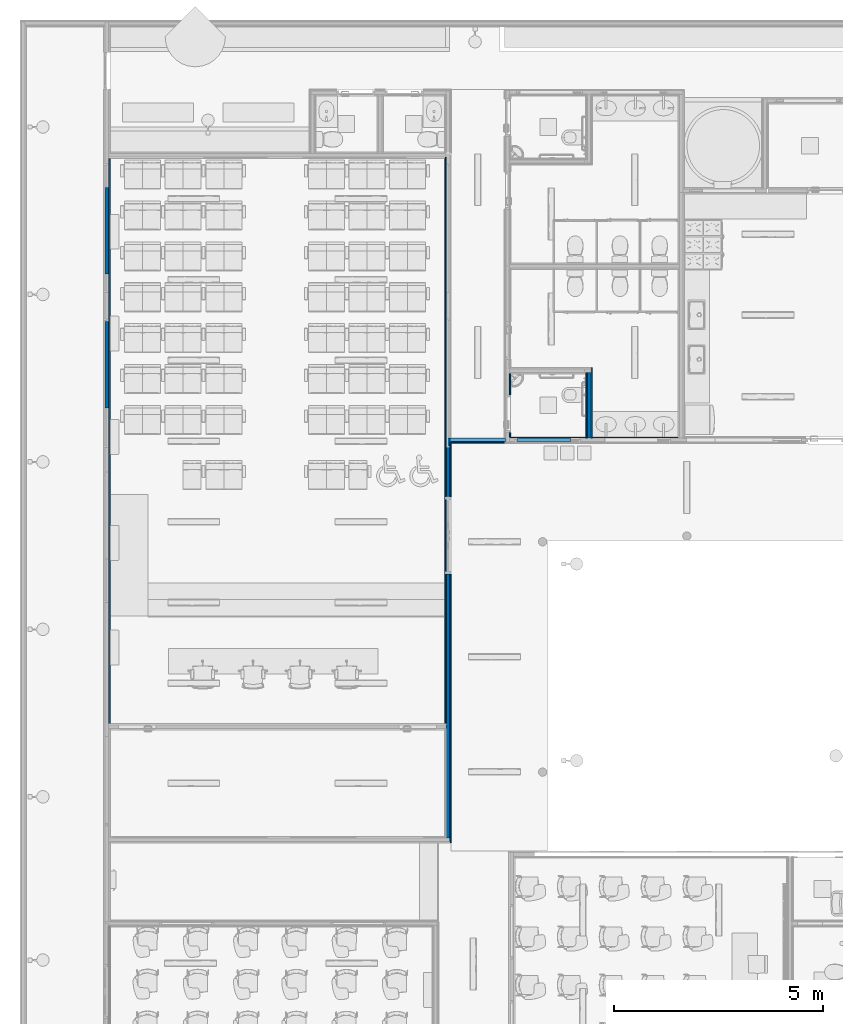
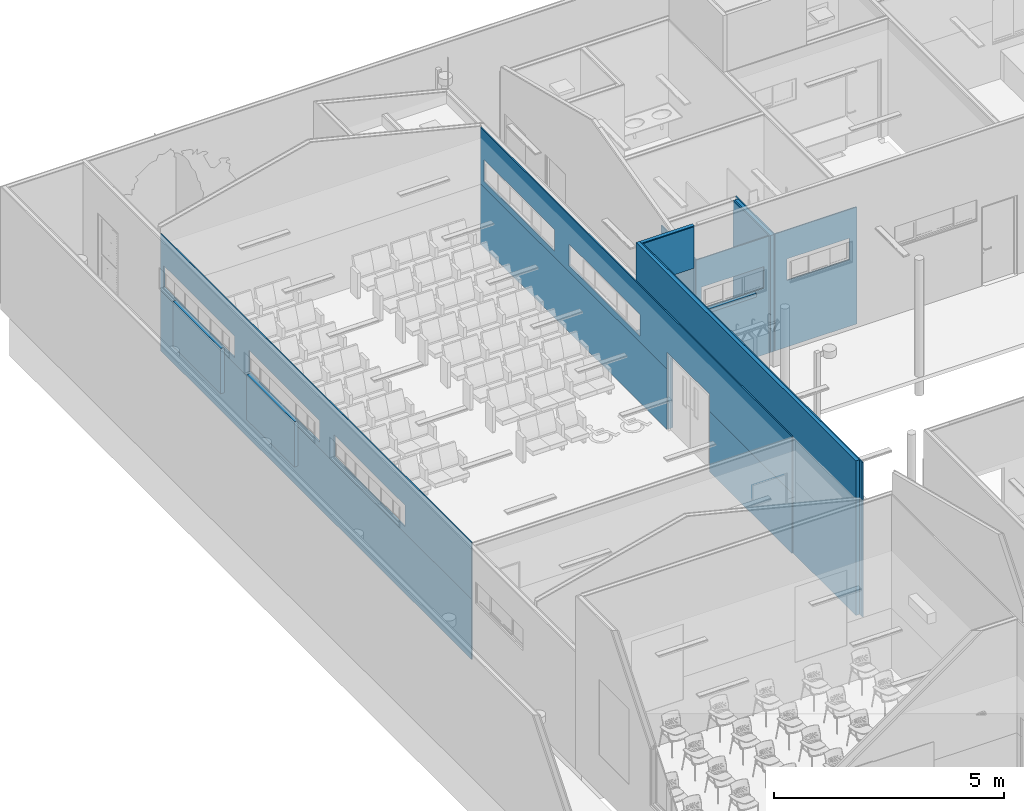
# One storey, part 27 of 155: 17 walls, 40 openings.
"""IFC2X3 building model written with IfcOpenShell, lengths in metres."""

from ifc_helpers import new_model, entity, si_unit, converted_unit, derived_unit, direction, frame, frame_2d, origin, place, context, subcontext, project, spatial, rectangle, extrude, material, layer, layer_set, layer_usage, type_object, element, save


model = new_model("IFC2X3")

# Units and contexts
model_context = context("Model", 3, precision=1e-05, world=origin(), true_north=direction((6.12303176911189e-17, 1.0)))
body_context = subcontext(model_context, "Body", "Model", "MODEL_VIEW")
ifc_project = project(units=[si_unit("LENGTHUNIT", "METRE"), si_unit("AREAUNIT", "SQUARE_METRE"), si_unit("VOLUMEUNIT", "CUBIC_METRE"), converted_unit("PLANEANGLEUNIT", "DEGREE", entity("IfcRatioMeasure", 0.0174532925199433), si_unit("PLANEANGLEUNIT", "RADIAN"), dimensions=[0, 0, 0, 0, 0, 0, 0]), si_unit("MASSUNIT", "GRAM", prefix="KILO"), derived_unit("MASSDENSITYUNIT", [(si_unit("MASSUNIT", "GRAM", prefix="KILO"), 1), (si_unit("LENGTHUNIT", "METRE"), -3)]), si_unit("TIMEUNIT", "SECOND"), si_unit("FREQUENCYUNIT", "HERTZ"), si_unit("THERMODYNAMICTEMPERATUREUNIT", "DEGREE_CELSIUS"), derived_unit("THERMALTRANSMITTANCEUNIT", [(si_unit("MASSUNIT", "GRAM", prefix="KILO"), 1), (si_unit("THERMODYNAMICTEMPERATUREUNIT", "KELVIN"), -1), (si_unit("TIMEUNIT", "SECOND"), -3)]), derived_unit("VOLUMETRICFLOWRATEUNIT", [(si_unit("LENGTHUNIT", "METRE"), 3), (si_unit("TIMEUNIT", "SECOND"), -1)]), si_unit("ELECTRICCURRENTUNIT", "AMPERE"), si_unit("ELECTRICVOLTAGEUNIT", "VOLT"), si_unit("POWERUNIT", "WATT"), si_unit("FORCEUNIT", "NEWTON", prefix="KILO"), si_unit("ILLUMINANCEUNIT", "LUX"), si_unit("LUMINOUSFLUXUNIT", "LUMEN"), si_unit("LUMINOUSINTENSITYUNIT", "CANDELA"), derived_unit("USERDEFINED", [(si_unit("MASSUNIT", "GRAM", prefix="KILO"), -1), (si_unit("LENGTHUNIT", "METRE"), -2), (si_unit("TIMEUNIT", "SECOND"), 3), (si_unit("LUMINOUSFLUXUNIT", "LUMEN"), 1)]), derived_unit("LINEARVELOCITYUNIT", [(si_unit("LENGTHUNIT", "METRE"), 1), (si_unit("TIMEUNIT", "SECOND"), -1)]), si_unit("PRESSUREUNIT", "PASCAL"), derived_unit("USERDEFINED", [(si_unit("LENGTHUNIT", "METRE"), -2), (si_unit("MASSUNIT", "GRAM", prefix="KILO"), 1), (si_unit("TIMEUNIT", "SECOND"), -2)])], contexts=[model_context])

# Site, building, storey
site_placement = place(None, frame((26.9889013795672, -17.5624287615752, 0.0)))
site = spatial("IfcSite", under=ifc_project, at=site_placement, Name="Default", CompositionType="ELEMENT")
building_placement = place(site_placement, origin())
building = spatial("IfcBuilding", under=site, at=building_placement, Name="C. C. L. Monsenhor Antônio Sampaio", CompositionType="ELEMENT")
storey_placement = place(building_placement, frame((0.0, 0.0, 1.19999999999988)))
storey = spatial("IfcBuildingStorey", under=building, at=storey_placement, Name="Nível 1.2", CompositionType="ELEMENT", Elevation=1.19999999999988)

# Wall, openings
ifc_material_1 = material(Name="ALVENARIA")
ifc_layer_1 = layer(ifc_material_1, 0.09)
ifc_layer_set_1 = layer_set([ifc_layer_1], Name="Parede básica:ENucleo parede 15cm")
ifc_layer_usage_1 = layer_usage(ifc_layer_set_1, "AXIS2", "NEGATIVE", 0.045)
wall_type_1 = type_object("IfcWallType", Name="Parede básica:ENucleo parede 15cm", PredefinedType="STANDARD", material=ifc_layer_set_1)
wall_1_placement = place(storey_placement, frame((-5.91555229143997, -26.3330663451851, 0.0), z_axis=(0.0, 0.0, 1.0), x_axis=(0.0, 1.0, 0.0)))
wall_1 = element("IfcWallStandardCase", 1, at=wall_1_placement, inside=storey, type_object=wall_type_1, material=ifc_layer_usage_1, Name="Parede básica:ENucleo parede 15cm", ObjectType="Parede básica:ENucleo parede 15cm", context=body_context, shape_type="SweptSolid", body=[
    extrude(rectangle(XDim=9.54999999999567, YDim=0.089999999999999, at=frame_2d((4.77499999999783, 6.93889390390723e-18), x_axis=(-1.0, 0.0))), origin(), (0.0, 0.0, 1.0), 4.10000000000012),
])
opening_1_placement = place(wall_1_placement, origin())
element("IfcOpeningElement", 2, at=opening_1_placement, cuts=wall_1, Name="Parede básica:ENucleo parede 15cm", ObjectType="Opening", context=body_context, shape_type="SweptSolid", body=[
    extrude(rectangle(XDim=0.569999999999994, YDim=3.07, at=frame_2d((0.0, 2.77555756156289e-16), x_axis=(0.0, 1.0))), frame((10.8600000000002, -1.479, 2.05000000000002), z_axis=(0.0, 1.0, 0.0), x_axis=(-1.0, 0.0, 0.0)), (0.0, 0.0, 1.0), 3.048),
])
opening_2_placement = place(wall_1_placement, origin())
element("IfcOpeningElement", 3, at=opening_2_placement, cuts=wall_1, Name="Parede básica:ENucleo parede 15cm", ObjectType="Opening", context=body_context, shape_type="SweptSolid", body=[
    extrude(rectangle(XDim=0.569999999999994, YDim=3.07, at=frame_2d((0.0, 2.77555756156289e-16), x_axis=(0.0, 1.0))), frame((14.5600000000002, -1.479, 2.05000000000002), z_axis=(0.0, 1.0, 0.0), x_axis=(-1.0, 0.0, 0.0)), (0.0, 0.0, 1.0), 3.048),
])
opening_3_placement = place(wall_1_placement, frame((8.14999999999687, 0.0449999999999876, 0.0)))
element("IfcOpeningElement", 4, at=opening_3_placement, cuts=wall_1, Name="Porta dupla auditorio:AUDITÓRIO azul:1", ObjectType="Opening", context=body_context, shape_type="SweptSolid", body=[
    extrude(rectangle(XDim=2.05, YDim=1.85, at=frame_2d((1.025, 0.924999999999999), x_axis=(1.0, 0.0))), frame((0.0, 0.0, 0.0), z_axis=(0.0, -1.0, 0.0), x_axis=(0.0, 0.0, 1.0)), (0.0, 0.0, 1.0), 0.09),
])

# Walls
ifc_layer_usage_2 = layer_usage(ifc_layer_set_1, "AXIS2", "POSITIVE", -0.045)
wall_2_placement = place(storey_placement, frame((-14.065552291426, -16.0680663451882, 0.565000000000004), z_axis=(0.0, 0.0, 1.0), x_axis=(0.0, 1.0, 0.0)))
element("IfcWallStandardCase", 5, at=wall_2_placement, inside=storey, type_object=wall_type_1, material=ifc_layer_usage_2, Name="Parede básica:ENucleo parede 15cm", ObjectType="Parede básica:ENucleo parede 15cm", context=body_context, shape_type="SweptSolid", body=[
    extrude(rectangle(XDim=2.07, YDim=0.089999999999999, at=frame_2d((-9.99200722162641e-16, -1.08593689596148e-15), x_axis=(1.0, 0.0))), frame((1.035, 0.0, 0.0), z_axis=(0.0, 0.0, 1.0), x_axis=(-1.0, 0.0, 0.0)), (0.0, 0.0, 1.0), 1.20000000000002),
])
ifc_layer_usage_3 = layer_usage(ifc_layer_set_1, "AXIS2", "POSITIVE", -0.045)
wall_3_placement = place(storey_placement, frame((-14.065552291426, -12.8680663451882, 0.565000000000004), z_axis=(0.0, 0.0, 1.0), x_axis=(0.0, 1.0, 0.0)))
element("IfcWallStandardCase", 6, at=wall_3_placement, inside=storey, type_object=wall_type_1, material=ifc_layer_usage_3, Name="Parede básica:ENucleo parede 15cm", ObjectType="Parede básica:ENucleo parede 15cm", context=body_context, shape_type="SweptSolid", body=[
    extrude(rectangle(XDim=2.07, YDim=0.089999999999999, at=frame_2d((-1.11022302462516e-15, 0.0), x_axis=(1.0, 0.0))), frame((1.035, 0.0, 0.0), z_axis=(0.0, 0.0, 1.0), x_axis=(-1.0, 0.0, 0.0)), (0.0, 0.0, 1.0), 1.20000000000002),
])
ifc_layer_usage_4 = layer_usage(ifc_layer_set_1, "AXIS2", "POSITIVE", -0.045)
wall_4_placement = place(storey_placement, frame((-4.26055229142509, -16.8280663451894, 1.66500000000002)))
element("IfcWallStandardCase", 7, at=wall_4_placement, inside=storey, type_object=wall_type_1, material=ifc_layer_usage_4, Name="Parede básica:ENucleo parede 15cm", ObjectType="Parede básica:ENucleo parede 15cm", context=body_context, shape_type="SweptSolid", body=[
    extrude(rectangle(XDim=1.26999999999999, YDim=0.089999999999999, at=frame_2d((0.0, 1.08593689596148e-15), x_axis=(1.0, 0.0))), frame((0.634999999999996, 0.0, 0.0), z_axis=(0.0, 0.0, 1.0), x_axis=(-1.0, 0.0, 0.0)), (0.0, 0.0, 1.0), 0.1),
])
ifc_layer_usage_5 = layer_usage(ifc_layer_set_1, "AXIS2", "POSITIVE", -0.045)
wall_5_placement = place(storey_placement, frame((-2.54554691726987, -16.7830663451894, 0.0), z_axis=(0.0, 0.0, 1.0), x_axis=(0.0, 1.0, 0.0)))
element("IfcWallStandardCase", 8, at=wall_5_placement, inside=storey, type_object=wall_type_1, material=ifc_layer_usage_5, Name="Parede básica:ENucleo parede 15cm", ObjectType="Parede básica:ENucleo parede 15cm", context=body_context, shape_type="SweptSolid", body=[
    extrude(rectangle(XDim=1.5600000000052, YDim=0.0900000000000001, at=frame_2d((0.780000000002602, 2.42861286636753e-17), x_axis=(-1.0, 0.0))), origin(), (0.0, 0.0, 1.0), 3.10000000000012),
])
ifc_layer_usage_6 = layer_usage(ifc_layer_set_1, "AXIS2", "NEGATIVE", 0.045)
wall_6_placement = place(storey_placement, frame((-5.87055229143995, -16.8280663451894, 3.0)))
element("IfcWallStandardCase", 9, at=wall_6_placement, inside=storey, type_object=wall_type_1, material=ifc_layer_usage_6, Name="Parede básica:ENucleo parede 15cm", ObjectType="Parede básica:ENucleo parede 15cm", context=body_context, shape_type="SweptSolid", body=[
    extrude(rectangle(XDim=1.33000000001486, YDim=0.0900000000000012, at=frame_2d((0.665000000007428, 1.00613961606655e-16), x_axis=(-1.0, 0.0))), origin(), (0.0, 0.0, 1.0), 1.10000000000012),
])
ifc_material_2 = material(Name=".CERÂMICA 10x10 BRANCA")
ifc_layer_2 = layer(ifc_material_2, 0.0035)
ifc_material_3 = material(Name="Argamassa Colante")
ifc_layer_3 = layer(ifc_material_3, 0.02)
ifc_material_4 = material(Name="4")
ifc_layer_4 = layer(ifc_material_4, 0.0015)
ifc_material_5 = material(Name="3")
ifc_layer_5 = layer(ifc_material_5, 0.005)
ifc_layer_set_2 = layer_set([ifc_layer_2, ifc_layer_3, ifc_layer_4, ifc_layer_5], Name="Parede básica:ECeramica branca 10x10cm")
ifc_layer_usage_7 = layer_usage(ifc_layer_set_2, "AXIS2", "NEGATIVE", 0.015)
wall_type_2 = type_object("IfcWallType", Name="Parede básica:ECeramica branca 10x10cm", PredefinedType="STANDARD", material=ifc_layer_set_2)
wall_7_placement = place(storey_placement, frame((-2.60554691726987, -16.7830663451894, 0.0), z_axis=(0.0, 0.0, 1.0), x_axis=(0.0, 1.0, 0.0)))
element("IfcWallStandardCase", 10, at=wall_7_placement, inside=storey, type_object=wall_type_2, material=ifc_layer_usage_7, Name="Parede básica:ECeramica branca 10x10cm", ObjectType="Parede básica:ECeramica branca 10x10cm", context=body_context, shape_type="SweptSolid", body=[
    extrude(rectangle(XDim=1.5600000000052, YDim=0.0299999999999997, at=frame_2d((0.780000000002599, 2.68882138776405e-17), x_axis=(-1.0, 0.0))), origin(), (0.0, 0.0, 1.0), 3.10000000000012),
])
ifc_layer_usage_8 = layer_usage(ifc_layer_set_2, "AXIS2", "POSITIVE", -0.015)
wall_8_placement = place(storey_placement, frame((-2.48554691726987, -16.7830663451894, 0.0), z_axis=(0.0, 0.0, 1.0), x_axis=(0.0, 1.0, 0.0)))
element("IfcWallStandardCase", 11, at=wall_8_placement, inside=storey, type_object=wall_type_2, material=ifc_layer_usage_8, Name="Parede básica:ECeramica branca 10x10cm", ObjectType="Parede básica:ECeramica branca 10x10cm", context=body_context, shape_type="SweptSolid", body=[
    extrude(rectangle(XDim=1.68000000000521, YDim=0.0299999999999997, at=frame_2d((0.840000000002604, 2.77555756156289e-17), x_axis=(-1.0, 0.0))), origin(), (0.0, 0.0, 1.0), 3.10000000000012),
])

# Wall, opening
ifc_layer_usage_9 = layer_usage(ifc_layer_set_2, "AXIS2", "NEGATIVE", 0.015)
wall_9_placement = place(storey_placement, frame((-4.43555229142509, -15.2530663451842, 0.0), z_axis=(0.0, 0.0, 1.0), x_axis=(0.0, -1.0, 0.0)))
wall_9 = element("IfcWallStandardCase", 12, at=wall_9_placement, inside=storey, type_object=wall_type_2, material=ifc_layer_usage_9, Name="Parede básica:ECeramica branca 10x10cm", ObjectType="Parede básica:ECeramica branca 10x10cm", context=body_context, shape_type="SweptSolid", body=[
    extrude(rectangle(XDim=1.5000000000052, YDim=0.0299999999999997, at=frame_2d((0.750000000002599, -2.60208521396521e-17), x_axis=(-1.0, 0.0))), origin(), (0.0, 0.0, 1.0), 3.10000000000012),
])
opening_4_placement = place(wall_9_placement, origin())
element("IfcOpeningElement", 13, at=opening_4_placement, cuts=wall_9, Name="Parede básica:ECeramica branca 10x10cm", ObjectType="Opening", context=body_context, shape_type="SweptSolid", body=[
    extrude(rectangle(XDim=2.09999999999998, YDim=0.900000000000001, at=frame_2d((-3.33066907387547e-16, -1.08246744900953e-15), x_axis=(1.0, 0.0))), frame((0.950000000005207, -1.629, 1.04999999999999), z_axis=(0.0, 1.0, 0.0), x_axis=(0.0, 0.0, 1.0)), (0.0, 0.0, 1.0), 3.048),
])

# Wall, openings
ifc_layer_usage_10 = layer_usage(ifc_layer_set_2, "AXIS2", "NEGATIVE", 0.015)
wall_10_placement = place(storey_placement, frame((-4.45055229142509, -16.7680663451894, 0.0)))
wall_10 = element("IfcWallStandardCase", 14, at=wall_10_placement, inside=storey, type_object=wall_type_2, material=ifc_layer_usage_10, Name="Parede básica:ECeramica branca 10x10cm", ObjectType="Parede básica:ECeramica branca 10x10cm", context=body_context, shape_type="SweptSolid", body=[
    extrude(rectangle(XDim=1.83000537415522, YDim=0.0300000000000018, at=frame_2d((0.915002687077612, 0.0), x_axis=(-1.0, 0.0))), origin(), (0.0, 0.0, 1.0), 3.10000000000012),
])
opening_5_placement = place(wall_10_placement, origin())
element("IfcOpeningElement", 15, at=opening_5_placement, cuts=wall_10, Name="Parede básica:ECeramica branca 10x10cm", ObjectType="Opening", context=body_context, shape_type="SweptSolid", body=[
    extrude(rectangle(XDim=0.570000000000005, YDim=1.56999999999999, at=frame_2d((5.27355936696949e-16, -2.22044604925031e-16), x_axis=(1.0, 0.0))), frame((0.915002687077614, -1.53900000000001, 2.05000000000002), z_axis=(0.0, 1.0, 0.0), x_axis=(0.0, 0.0, 1.0)), (0.0, 0.0, 1.0), 3.048),
])
opening_6_placement = place(wall_10_placement, origin())
element("IfcOpeningElement", 16, at=opening_6_placement, cuts=wall_10, Name="Parede básica:ECeramica branca 10x10cm", ObjectType="Opening", context=body_context, shape_type="SweptSolid", body=[
    extrude(rectangle(XDim=0.570000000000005, YDim=1.56999999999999, at=frame_2d((5.27355936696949e-16, 0.0), x_axis=(1.0, 0.0))), frame((3.0650053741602, -1.53900000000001, 2.05000000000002), z_axis=(0.0, 1.0, 0.0), x_axis=(0.0, 0.0, 1.0)), (0.0, 0.0, 1.0), 3.048),
])
opening_7_placement = place(wall_10_placement, origin())
element("IfcOpeningElement", 17, at=opening_7_placement, cuts=wall_10, Name="Parede básica:ECeramica branca 10x10cm", ObjectType="Opening", context=body_context, shape_type="SweptSolid", body=[
    extrude(rectangle(XDim=0.570000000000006, YDim=2.07, at=frame_2d((0.0, 2.77555756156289e-16), x_axis=(0.0, 1.0))), frame((5.94141826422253, -1.53900000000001, 2.05000000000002), z_axis=(0.0, 1.0, 0.0), x_axis=(-1.0, 0.0, 0.0)), (0.0, 0.0, 1.0), 3.048),
])
opening_8_placement = place(wall_10_placement, origin())
element("IfcOpeningElement", 18, at=opening_8_placement, cuts=wall_10, Name="Parede básica:ECeramica branca 10x10cm", ObjectType="Opening", context=body_context, shape_type="SweptSolid", body=[
    extrude(rectangle(XDim=0.570000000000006, YDim=2.06999999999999, at=frame_2d((0.0, 2.77555756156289e-16), x_axis=(0.0, 1.0))), frame((14.6901682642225, -1.539, 2.05000000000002), z_axis=(0.0, 1.0, 0.0), x_axis=(-1.0, 0.0, 0.0)), (0.0, 0.0, 1.0), 3.048),
])
opening_9_placement = place(wall_10_placement, origin())
element("IfcOpeningElement", 19, at=opening_9_placement, cuts=wall_10, Name="Parede básica:ECeramica branca 10x10cm", ObjectType="Opening", context=body_context, shape_type="SweptSolid", body=[
    extrude(rectangle(XDim=0.570000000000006, YDim=2.07, at=frame_2d((5.55111512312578e-16, 2.77555756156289e-16), x_axis=(0.0, 1.0))), frame((12.2001682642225, -1.539, 2.05000000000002), z_axis=(0.0, 1.0, 0.0), x_axis=(-1.0, 0.0, 0.0)), (0.0, 0.0, 1.0), 3.048),
])

ifc_layer_usage_11 = layer_usage(ifc_layer_set_2, "AXIS2", "NEGATIVE", 0.015)
wall_11_placement = place(storey_placement, frame((-5.97555229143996, -23.6030663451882, 0.0), z_axis=(0.0, 0.0, 1.0), x_axis=(0.0, 1.0, 0.0)))
wall_11 = element("IfcWallStandardCase", 20, at=wall_11_placement, inside=storey, type_object=wall_type_2, material=ifc_layer_usage_11, Name="Parede básica:ECeramica branca 10x10cm", ObjectType="Parede básica:ECeramica branca 10x10cm", context=body_context, shape_type="SweptSolid", body=[
    extrude(rectangle(XDim=13.5300000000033, YDim=0.0299999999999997, at=frame_2d((6.76500000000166, 0.0), x_axis=(-1.0, 0.0))), origin(), (0.0, 0.0, 1.0), 1.6),
])
opening_10_placement = place(wall_11_placement, origin())
element("IfcOpeningElement", 21, at=opening_10_placement, cuts=wall_11, Name="Parede básica:ECeramica branca 10x10cm", ObjectType="Opening", context=body_context, shape_type="SweptSolid", body=[
    extrude(rectangle(XDim=2.05, YDim=1.85, at=frame_2d((0.0, -2.16493489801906e-15), x_axis=(1.0, 0.0))), frame((4.495, -1.539, 1.025), z_axis=(0.0, 1.0, 0.0), x_axis=(0.0, 0.0, 1.0)), (0.0, 0.0, 1.0), 3.048),
])
opening_11_placement = place(wall_11_placement, origin())
element("IfcOpeningElement", 22, at=opening_11_placement, cuts=wall_11, Name="Parede básica:ECeramica branca 10x10cm", ObjectType="Opening", context=body_context, shape_type="SweptSolid", body=[
    extrude(rectangle(XDim=0.569999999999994, YDim=3.07, at=frame_2d((0.0, 2.77555756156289e-16), x_axis=(0.0, 1.0))), frame((8.13000000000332, -1.539, 2.05000000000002), z_axis=(0.0, 1.0, 0.0), x_axis=(-1.0, 0.0, 0.0)), (0.0, 0.0, 1.0), 3.048),
])

ifc_layer_usage_12 = layer_usage(ifc_layer_set_2, "AXIS2", "NEGATIVE", 0.015)
wall_12_placement = place(storey_placement, frame((-14.005552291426, -10.1030663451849, 0.0), z_axis=(0.0, 0.0, 1.0), x_axis=(0.0, -1.0, 0.0)))
wall_12 = element("IfcWallStandardCase", 23, at=wall_12_placement, inside=storey, type_object=wall_type_2, material=ifc_layer_usage_12, Name="Parede básica:ECeramica branca 10x10cm", ObjectType="Parede básica:ECeramica branca 10x10cm", context=body_context, shape_type="SweptSolid", body=[
    extrude(rectangle(XDim=13.5000000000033, YDim=0.0300000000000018, at=frame_2d((6.75000000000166, 0.0), x_axis=(-1.0, 0.0))), origin(), (0.0, 0.0, 1.0), 1.6),
])
opening_12_placement = place(wall_12_placement, origin())
element("IfcOpeningElement", 24, at=opening_12_placement, cuts=wall_12, Name="Parede básica:ECeramica branca 10x10cm", ObjectType="Opening", context=body_context, shape_type="SweptSolid", body=[
    extrude(rectangle(XDim=0.569999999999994, YDim=3.07, at=frame_2d((0.0, 2.77555756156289e-16), x_axis=(0.0, 1.0))), frame((1.67, -1.539, 2.05000000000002), z_axis=(0.0, 1.0, 0.0), x_axis=(-1.0, 0.0, 0.0)), (0.0, 0.0, 1.0), 3.048),
])
opening_13_placement = place(wall_12_placement, origin())
element("IfcOpeningElement", 25, at=opening_13_placement, cuts=wall_12, Name="Parede básica:ECeramica branca 10x10cm", ObjectType="Opening", context=body_context, shape_type="SweptSolid", body=[
    extrude(rectangle(XDim=0.569999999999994, YDim=3.07, at=frame_2d((0.0, 2.77555756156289e-16), x_axis=(0.0, 1.0))), frame((5.36999999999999, -1.539, 2.05000000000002), z_axis=(0.0, 1.0, 0.0), x_axis=(-1.0, 0.0, 0.0)), (0.0, 0.0, 1.0), 3.048),
])
opening_14_placement = place(wall_12_placement, origin())
element("IfcOpeningElement", 26, at=opening_14_placement, cuts=wall_12, Name="Parede básica:ECeramica branca 10x10cm", ObjectType="Opening", context=body_context, shape_type="SweptSolid", body=[
    extrude(rectangle(XDim=0.569999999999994, YDim=3.07, at=frame_2d((1.11022302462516e-15, 2.77555756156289e-16), x_axis=(0.0, 1.0))), frame((9.07, -1.539, 2.05000000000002), z_axis=(0.0, 1.0, 0.0), x_axis=(-1.0, 0.0, 0.0)), (0.0, 0.0, 1.0), 3.048),
])
opening_15_placement = place(wall_12_placement, origin())
element("IfcOpeningElement", 27, at=opening_15_placement, cuts=wall_12, Name="Parede básica:ECeramica branca 10x10cm", ObjectType="Opening", context=body_context, shape_type="SweptSolid", body=[
    extrude(rectangle(XDim=2.0, YDim=1.30000000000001, at=frame_2d((0.0, -3.88578058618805e-16), x_axis=(0.0, 1.0))), frame((19.9000000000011, -1.539, 2.0), z_axis=(0.0, 1.0, 0.0), x_axis=(-1.0, 0.0, 0.0)), (0.0, 0.0, 1.0), 3.048),
])
opening_16_placement = place(wall_12_placement, origin())
element("IfcOpeningElement", 28, at=opening_16_placement, cuts=wall_12, Name="Parede básica:ECeramica branca 10x10cm", ObjectType="Opening", context=body_context, shape_type="SweptSolid", body=[
    extrude(rectangle(XDim=2.0, YDim=1.30000000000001, at=frame_2d((1.66533453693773e-16, 0.0), x_axis=(1.0, 0.0))), frame((22.1000000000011, -1.629, 2.0), z_axis=(0.0, 1.0, 0.0), x_axis=(0.0, 0.0, 1.0)), (0.0, 0.0, 1.0), 3.048),
])
opening_17_placement = place(wall_12_placement, origin())
element("IfcOpeningElement", 29, at=opening_17_placement, cuts=wall_12, Name="Parede básica:ECeramica branca 10x10cm", ObjectType="Opening", context=body_context, shape_type="SweptSolid", body=[
    extrude(rectangle(XDim=2.0, YDim=1.30000000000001, at=frame_2d((0.0, -3.88578058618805e-16), x_axis=(0.0, 1.0))), frame((25.3200000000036, -1.539, 2.0), z_axis=(0.0, 1.0, 0.0), x_axis=(-1.0, 0.0, 0.0)), (0.0, 0.0, 1.0), 3.048),
])
opening_18_placement = place(wall_12_placement, origin())
element("IfcOpeningElement", 30, at=opening_18_placement, cuts=wall_12, Name="Parede básica:ECeramica branca 10x10cm", ObjectType="Opening", context=body_context, shape_type="SweptSolid", body=[
    extrude(rectangle(XDim=2.0, YDim=1.30000000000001, at=frame_2d((0.0, -3.88578058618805e-16), x_axis=(0.0, 1.0))), frame((27.6200000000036, -1.539, 2.0), z_axis=(0.0, 1.0, 0.0), x_axis=(-1.0, 0.0, 0.0)), (0.0, 0.0, 1.0), 3.048),
])
opening_19_placement = place(wall_12_placement, origin())
element("IfcOpeningElement", 31, at=opening_19_placement, cuts=wall_12, Name="Parede básica:ECeramica branca 10x10cm", ObjectType="Opening", context=body_context, shape_type="SweptSolid", body=[
    extrude(rectangle(XDim=0.570000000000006, YDim=2.07, at=frame_2d((0.0, 2.77555756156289e-16), x_axis=(0.0, 1.0))), frame((14.9100000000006, -1.539, 2.05000000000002), z_axis=(0.0, 1.0, 0.0), x_axis=(-1.0, 0.0, 0.0)), (0.0, 0.0, 1.0), 3.048),
])
opening_20_placement = place(wall_12_placement, origin())
element("IfcOpeningElement", 32, at=opening_20_placement, cuts=wall_12, Name="Parede básica:ECeramica branca 10x10cm", ObjectType="Opening", context=body_context, shape_type="SweptSolid", body=[
    extrude(rectangle(XDim=2.15999999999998, YDim=0.879999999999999, at=frame_2d((0.0, 0.0), x_axis=(0.0, 1.0))), frame((-2.08999999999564, -1.629, 1.07999999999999), z_axis=(0.0, 1.0, 0.0), x_axis=(-1.0, 0.0, 0.0)), (0.0, 0.0, 1.0), 3.048),
])

ifc_layer_usage_13 = layer_usage(ifc_layer_set_2, "AXIS2", "NEGATIVE", 0.015)
wall_13_placement = place(storey_placement, frame((-2.47054691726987, -16.7680663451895, 0.0)))
wall_13 = element("IfcWallStandardCase", 33, at=wall_13_placement, inside=storey, type_object=wall_type_2, material=ifc_layer_usage_13, Name="Parede básica:ECeramica branca 10x10cm", ObjectType="Parede básica:ECeramica branca 10x10cm", context=body_context, shape_type="SweptSolid", body=[
    extrude(rectangle(XDim=2.04999462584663, YDim=0.0300000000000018, at=frame_2d((1.02499731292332, 0.0), x_axis=(-1.0, 0.0))), origin(), (0.0, 0.0, 1.0), 3.10000000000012),
])
opening_21_placement = place(wall_13_placement, origin())
element("IfcOpeningElement", 34, at=opening_21_placement, cuts=wall_13, Name="Parede básica:ECeramica branca 10x10cm", ObjectType="Opening", context=body_context, shape_type="SweptSolid", body=[
    extrude(rectangle(XDim=0.570000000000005, YDim=1.56999999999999, at=frame_2d((5.27355936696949e-16, -2.22044604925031e-16), x_axis=(1.0, 0.0))), frame((-1.06500268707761, -1.53899999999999, 2.05000000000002), z_axis=(0.0, 1.0, 0.0), x_axis=(0.0, 0.0, 1.0)), (0.0, 0.0, 1.0), 3.048),
])
opening_22_placement = place(wall_13_placement, origin())
element("IfcOpeningElement", 35, at=opening_22_placement, cuts=wall_13, Name="Parede básica:ECeramica branca 10x10cm", ObjectType="Opening", context=body_context, shape_type="SweptSolid", body=[
    extrude(rectangle(XDim=0.570000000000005, YDim=1.56999999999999, at=frame_2d((5.27355936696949e-16, 0.0), x_axis=(1.0, 0.0))), frame((1.08500000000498, -1.53899999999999, 2.05000000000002), z_axis=(0.0, 1.0, 0.0), x_axis=(0.0, 0.0, 1.0)), (0.0, 0.0, 1.0), 3.048),
])
opening_23_placement = place(wall_13_placement, origin())
element("IfcOpeningElement", 36, at=opening_23_placement, cuts=wall_13, Name="Parede básica:ECeramica branca 10x10cm", ObjectType="Opening", context=body_context, shape_type="SweptSolid", body=[
    extrude(rectangle(XDim=0.570000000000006, YDim=2.07, at=frame_2d((0.0, 2.77555756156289e-16), x_axis=(0.0, 1.0))), frame((3.96141289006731, -1.53899999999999, 2.05000000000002), z_axis=(0.0, 1.0, 0.0), x_axis=(-1.0, 0.0, 0.0)), (0.0, 0.0, 1.0), 3.048),
])
opening_24_placement = place(wall_13_placement, origin())
element("IfcOpeningElement", 37, at=opening_24_placement, cuts=wall_13, Name="Parede básica:ECeramica branca 10x10cm", ObjectType="Opening", context=body_context, shape_type="SweptSolid", body=[
    extrude(rectangle(XDim=0.570000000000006, YDim=2.06999999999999, at=frame_2d((0.0, 2.77555756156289e-16), x_axis=(0.0, 1.0))), frame((12.7101628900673, -1.53899999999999, 2.05000000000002), z_axis=(0.0, 1.0, 0.0), x_axis=(-1.0, 0.0, 0.0)), (0.0, 0.0, 1.0), 3.048),
])
opening_25_placement = place(wall_13_placement, origin())
element("IfcOpeningElement", 38, at=opening_25_placement, cuts=wall_13, Name="Parede básica:ECeramica branca 10x10cm", ObjectType="Opening", context=body_context, shape_type="SweptSolid", body=[
    extrude(rectangle(XDim=0.570000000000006, YDim=2.07, at=frame_2d((5.55111512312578e-16, 2.77555756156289e-16), x_axis=(0.0, 1.0))), frame((10.2201628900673, -1.53899999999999, 2.05000000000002), z_axis=(0.0, 1.0, 0.0), x_axis=(-1.0, 0.0, 0.0)), (0.0, 0.0, 1.0), 3.048),
])

ifc_material_6 = material(Name="Acabamento Branco")
ifc_layer_6 = layer(ifc_material_6, 0.0035)
ifc_material_7 = material(Name="Massa corrida")
ifc_layer_7 = layer(ifc_material_7, 0.02)
ifc_layer_8 = layer(ifc_material_4, 0.0015)
ifc_layer_9 = layer(ifc_material_5, 0.005)
ifc_layer_set_3 = layer_set([ifc_layer_6, ifc_layer_7, ifc_layer_8, ifc_layer_9], Name="Parede básica:EPintura Branca")
ifc_layer_usage_14 = layer_usage(ifc_layer_set_3, "AXIS2", "NEGATIVE", 0.015)
wall_type_3 = type_object("IfcWallType", Name="Parede básica:EPintura Branca", PredefinedType="STANDARD", material=ifc_layer_set_3)
wall_14_placement = place(storey_placement, frame((-5.97555229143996, -23.6030663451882, 1.6), z_axis=(0.0, 0.0, 1.0), x_axis=(0.0, 1.0, 0.0)))
wall_14 = element("IfcWallStandardCase", 39, at=wall_14_placement, inside=storey, type_object=wall_type_3, material=ifc_layer_usage_14, Name="Parede básica:EPintura Branca", ObjectType="Parede básica:EPintura Branca", context=body_context, shape_type="SweptSolid", body=[
    extrude(rectangle(XDim=13.5300000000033, YDim=0.0299999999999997, at=frame_2d((6.76500000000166, 0.0), x_axis=(-1.0, 0.0))), origin(), (0.0, 0.0, 1.0), 1.50000000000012),
])
opening_26_placement = place(wall_14_placement, origin())
element("IfcOpeningElement", 40, at=opening_26_placement, cuts=wall_14, Name="Parede básica:EPintura Branca", ObjectType="Opening", context=body_context, shape_type="SweptSolid", body=[
    extrude(rectangle(XDim=2.05, YDim=1.85, at=frame_2d((0.0, -2.16493489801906e-15), x_axis=(1.0, 0.0))), frame((4.495, -1.539, -0.575), z_axis=(0.0, 1.0, 0.0), x_axis=(0.0, 0.0, 1.0)), (0.0, 0.0, 1.0), 3.048),
])
opening_27_placement = place(wall_14_placement, origin())
element("IfcOpeningElement", 41, at=opening_27_placement, cuts=wall_14, Name="Parede básica:EPintura Branca", ObjectType="Opening", context=body_context, shape_type="SweptSolid", body=[
    extrude(rectangle(XDim=0.569999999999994, YDim=3.07, at=frame_2d((0.0, 2.77555756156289e-16), x_axis=(0.0, 1.0))), frame((8.13000000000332, -1.539, 0.45000000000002), z_axis=(0.0, 1.0, 0.0), x_axis=(-1.0, 0.0, 0.0)), (0.0, 0.0, 1.0), 3.048),
])
opening_28_placement = place(wall_14_placement, origin())
element("IfcOpeningElement", 42, at=opening_28_placement, cuts=wall_14, Name="Parede básica:EPintura Branca", ObjectType="Opening", context=body_context, shape_type="SweptSolid", body=[
    extrude(rectangle(XDim=0.569999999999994, YDim=3.07, at=frame_2d((0.0, 2.77555756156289e-16), x_axis=(0.0, 1.0))), frame((11.8300000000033, -1.539, 0.45000000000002), z_axis=(0.0, 1.0, 0.0), x_axis=(-1.0, 0.0, 0.0)), (0.0, 0.0, 1.0), 3.048),
])

ifc_layer_usage_15 = layer_usage(ifc_layer_set_3, "AXIS2", "NEGATIVE", 0.015)
wall_15_placement = place(storey_placement, frame((-14.005552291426, -10.1030663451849, 1.6), z_axis=(0.0, 0.0, 1.0), x_axis=(0.0, -1.0, 0.0)))
wall_15 = element("IfcWallStandardCase", 43, at=wall_15_placement, inside=storey, type_object=wall_type_3, material=ifc_layer_usage_15, Name="Parede básica:EPintura Branca", ObjectType="Parede básica:EPintura Branca", context=body_context, shape_type="SweptSolid", body=[
    extrude(rectangle(XDim=13.5000000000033, YDim=0.0300000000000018, at=frame_2d((6.75000000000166, 0.0), x_axis=(-1.0, 0.0))), origin(), (0.0, 0.0, 1.0), 1.50000000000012),
])
opening_29_placement = place(wall_15_placement, origin())
element("IfcOpeningElement", 44, at=opening_29_placement, cuts=wall_15, Name="Parede básica:EPintura Branca", ObjectType="Opening", context=body_context, shape_type="SweptSolid", body=[
    extrude(rectangle(XDim=0.569999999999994, YDim=3.07, at=frame_2d((0.0, 2.77555756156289e-16), x_axis=(0.0, 1.0))), frame((1.67, -1.539, 0.45000000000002), z_axis=(0.0, 1.0, 0.0), x_axis=(-1.0, 0.0, 0.0)), (0.0, 0.0, 1.0), 3.048),
])
opening_30_placement = place(wall_15_placement, origin())
element("IfcOpeningElement", 45, at=opening_30_placement, cuts=wall_15, Name="Parede básica:EPintura Branca", ObjectType="Opening", context=body_context, shape_type="SweptSolid", body=[
    extrude(rectangle(XDim=0.569999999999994, YDim=3.07, at=frame_2d((0.0, 2.77555756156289e-16), x_axis=(0.0, 1.0))), frame((5.36999999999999, -1.539, 0.45000000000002), z_axis=(0.0, 1.0, 0.0), x_axis=(-1.0, 0.0, 0.0)), (0.0, 0.0, 1.0), 3.048),
])
opening_31_placement = place(wall_15_placement, origin())
element("IfcOpeningElement", 46, at=opening_31_placement, cuts=wall_15, Name="Parede básica:EPintura Branca", ObjectType="Opening", context=body_context, shape_type="SweptSolid", body=[
    extrude(rectangle(XDim=0.569999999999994, YDim=3.07, at=frame_2d((1.11022302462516e-15, 2.77555756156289e-16), x_axis=(0.0, 1.0))), frame((9.07, -1.539, 0.45000000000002), z_axis=(0.0, 1.0, 0.0), x_axis=(-1.0, 0.0, 0.0)), (0.0, 0.0, 1.0), 3.048),
])
opening_32_placement = place(wall_15_placement, origin())
element("IfcOpeningElement", 47, at=opening_32_placement, cuts=wall_15, Name="Parede básica:EPintura Branca", ObjectType="Opening", context=body_context, shape_type="SweptSolid", body=[
    extrude(rectangle(XDim=2.0, YDim=1.30000000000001, at=frame_2d((0.0, -3.88578058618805e-16), x_axis=(0.0, 1.0))), frame((19.9000000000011, -1.539, 0.400000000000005), z_axis=(0.0, 1.0, 0.0), x_axis=(-1.0, 0.0, 0.0)), (0.0, 0.0, 1.0), 3.048),
])
opening_33_placement = place(wall_15_placement, origin())
element("IfcOpeningElement", 48, at=opening_33_placement, cuts=wall_15, Name="Parede básica:EPintura Branca", ObjectType="Opening", context=body_context, shape_type="SweptSolid", body=[
    extrude(rectangle(XDim=2.0, YDim=1.30000000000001, at=frame_2d((1.66533453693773e-16, 0.0), x_axis=(1.0, 0.0))), frame((22.1000000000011, -1.629, 0.400000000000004), z_axis=(0.0, 1.0, 0.0), x_axis=(0.0, 0.0, 1.0)), (0.0, 0.0, 1.0), 3.048),
])
opening_34_placement = place(wall_15_placement, origin())
element("IfcOpeningElement", 49, at=opening_34_placement, cuts=wall_15, Name="Parede básica:EPintura Branca", ObjectType="Opening", context=body_context, shape_type="SweptSolid", body=[
    extrude(rectangle(XDim=2.0, YDim=1.30000000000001, at=frame_2d((0.0, -3.88578058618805e-16), x_axis=(0.0, 1.0))), frame((25.3200000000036, -1.539, 0.400000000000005), z_axis=(0.0, 1.0, 0.0), x_axis=(-1.0, 0.0, 0.0)), (0.0, 0.0, 1.0), 3.048),
])
opening_35_placement = place(wall_15_placement, origin())
element("IfcOpeningElement", 50, at=opening_35_placement, cuts=wall_15, Name="Parede básica:EPintura Branca", ObjectType="Opening", context=body_context, shape_type="SweptSolid", body=[
    extrude(rectangle(XDim=2.0, YDim=1.30000000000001, at=frame_2d((0.0, -3.88578058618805e-16), x_axis=(0.0, 1.0))), frame((27.6200000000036, -1.539, 0.400000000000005), z_axis=(0.0, 1.0, 0.0), x_axis=(-1.0, 0.0, 0.0)), (0.0, 0.0, 1.0), 3.048),
])
opening_36_placement = place(wall_15_placement, origin())
element("IfcOpeningElement", 51, at=opening_36_placement, cuts=wall_15, Name="Parede básica:EPintura Branca", ObjectType="Opening", context=body_context, shape_type="SweptSolid", body=[
    extrude(rectangle(XDim=0.570000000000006, YDim=2.07, at=frame_2d((0.0, 2.77555756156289e-16), x_axis=(0.0, 1.0))), frame((14.9100000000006, -1.539, 0.450000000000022), z_axis=(0.0, 1.0, 0.0), x_axis=(-1.0, 0.0, 0.0)), (0.0, 0.0, 1.0), 3.048),
])
opening_37_placement = place(wall_15_placement, origin())
element("IfcOpeningElement", 52, at=opening_37_placement, cuts=wall_15, Name="Parede básica:EPintura Branca", ObjectType="Opening", context=body_context, shape_type="SweptSolid", body=[
    extrude(rectangle(XDim=2.15999999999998, YDim=0.879999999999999, at=frame_2d((0.0, 0.0), x_axis=(0.0, 1.0))), frame((-2.08999999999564, -1.629, -0.520000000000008), z_axis=(0.0, 1.0, 0.0), x_axis=(-1.0, 0.0, 0.0)), (0.0, 0.0, 1.0), 3.048),
])

ifc_material_8 = material(Name="Acabamento amarelo")
ifc_layer_10 = layer(ifc_material_8, 0.0035)
ifc_layer_11 = layer(ifc_material_7, 0.02)
ifc_layer_12 = layer(ifc_material_4, 0.0015)
ifc_layer_13 = layer(ifc_material_5, 0.005)
ifc_layer_set_4 = layer_set([ifc_layer_10, ifc_layer_11, ifc_layer_12, ifc_layer_13], Name="Parede básica:EPintura amarela")
ifc_layer_usage_16 = layer_usage(ifc_layer_set_4, "AXIS2", "POSITIVE", -0.015)
wall_type_4 = type_object("IfcWallType", Name="Parede básica:EPintura amarela", PredefinedType="STANDARD", material=ifc_layer_set_4)
wall_16_placement = place(storey_placement, frame((-5.85555229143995, -26.4530663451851, 0.0), z_axis=(0.0, 0.0, 1.0), x_axis=(0.0, 1.0, 0.0)))
wall_16 = element("IfcWallStandardCase", 53, at=wall_16_placement, inside=storey, type_object=wall_type_4, material=ifc_layer_usage_16, Name="Parede básica:EPintura amarela", ObjectType="Parede básica:EPintura amarela", context=body_context, shape_type="SweptSolid", body=[
    extrude(rectangle(XDim=9.57999999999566, YDim=0.0299999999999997, at=frame_2d((4.78999999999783, -2.34187669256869e-16), x_axis=(-1.0, 0.0))), origin(), (0.0, 0.0, 1.0), 4.10000000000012),
])
opening_38_placement = place(wall_16_placement, origin())
element("IfcOpeningElement", 54, at=opening_38_placement, cuts=wall_16, Name="Parede básica:EPintura amarela", ObjectType="Opening", context=body_context, shape_type="SweptSolid", body=[
    extrude(rectangle(XDim=2.05, YDim=1.85, at=frame_2d((0.0, -2.16493489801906e-15), x_axis=(1.0, 0.0))), frame((7.34499999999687, -1.41899999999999, 1.025), z_axis=(0.0, 1.0, 0.0), x_axis=(0.0, 0.0, 1.0)), (0.0, 0.0, 1.0), 3.048),
])
opening_39_placement = place(wall_16_placement, origin())
element("IfcOpeningElement", 55, at=opening_39_placement, cuts=wall_16, Name="Parede básica:EPintura amarela", ObjectType="Opening", context=body_context, shape_type="SweptSolid", body=[
    extrude(rectangle(XDim=0.569999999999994, YDim=3.07, at=frame_2d((0.0, 2.77555756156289e-16), x_axis=(0.0, 1.0))), frame((10.9800000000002, -1.41899999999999, 2.05000000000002), z_axis=(0.0, 1.0, 0.0), x_axis=(-1.0, 0.0, 0.0)), (0.0, 0.0, 1.0), 3.048),
])
opening_40_placement = place(wall_16_placement, origin())
element("IfcOpeningElement", 56, at=opening_40_placement, cuts=wall_16, Name="Parede básica:EPintura amarela", ObjectType="Opening", context=body_context, shape_type="SweptSolid", body=[
    extrude(rectangle(XDim=0.569999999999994, YDim=3.07, at=frame_2d((0.0, 2.77555756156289e-16), x_axis=(0.0, 1.0))), frame((14.6800000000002, -1.41899999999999, 2.05000000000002), z_axis=(0.0, 1.0, 0.0), x_axis=(-1.0, 0.0, 0.0)), (0.0, 0.0, 1.0), 3.048),
])

# Wall
ifc_layer_usage_17 = layer_usage(ifc_layer_set_4, "AXIS2", "NEGATIVE", 0.015)
wall_17_placement = place(storey_placement, frame((-4.57055229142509, -16.8880663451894, 3.0), z_axis=(0.0, 0.0, 1.0), x_axis=(-1.0, 0.0, 0.0)))
element("IfcWallStandardCase", 57, at=wall_17_placement, inside=storey, type_object=wall_type_4, material=ifc_layer_usage_17, Name="Parede básica:EPintura amarela", ObjectType="Parede básica:EPintura amarela", context=body_context, shape_type="SweptSolid", body=[
    extrude(rectangle(XDim=1.27000000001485, YDim=0.0300000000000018, at=frame_2d((0.635000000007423, 0.0), x_axis=(-1.0, 0.0))), origin(), (0.0, 0.0, 1.0), 1.10000000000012),
])

save(model, "model.ifc")
